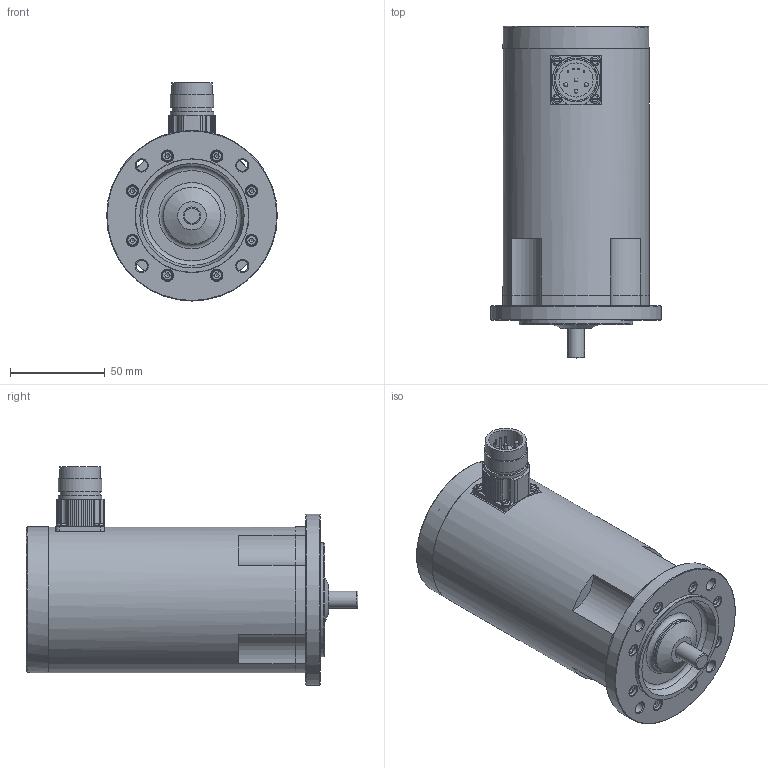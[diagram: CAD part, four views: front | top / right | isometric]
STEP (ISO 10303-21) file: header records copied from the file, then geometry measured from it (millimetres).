
FILE_DESCRIPTION(/* description */ (''),/* implementation_level */ '2;1');
FILE_NAME(/* name */ 'ksa_2x6e',/* time_stamp */ '2007-03-13T07:06:23+01:00',/* author */ (''),/* organization */ (''),/* preprocessor_version */ 'ST-DEVELOPER v8',/* originating_system */ 'UNIGRAPHICS SOLUTIONS - UNIGRAPHICS 18.0',/* authorisation */ '');
FILE_SCHEMA (('AUTOMOTIVE_DESIGN { 1 2 10303 214 0 1 1 1 }'));
Length unit declared in the file: millimetre
Products named in the file (11): din912-m4x12_A; din912-m3x20_A; iso1580-m2.5x6_A; 06331002_0; DIN3760_org_A12x24x7_0; 014260_0; 112069_0; 112068_0; Rotor_SA 24.. E_0; Gehaeuse_SA 24.. E_0; KSA246_E_0
Assembly tree (23 placements, depth 2):
  KSA246_E_0
    Gehaeuse_SA 24.. E_0
    Rotor_SA 24.. E_0
    112068_0
    112069_0
    014260_0
    DIN3760_org_A12x24x7_0
    06331002_0
    iso1580-m2.5x6_A  x4
    din912-m3x20_A  x8
    din912-m4x12_A  x4
Bounding box: 90 x 175 x 115 mm (x, y, z)
Volume: 365025.4 mm3; surface area: 112355.3 mm2
Topology: 23 solids, 23 shells, 591 faces, 1337 edges, 832 vertices
Faces by surface type: plane 277, cylinder 184, cone 89, torus 33, sphere 8
Full cylindrical faces by diameter (mm): 1 x4, 1.948 x4, 2 x4, 2.5 x12, 2.7 x4, 3 x12, 3.013 x1, 3.4 x8, 4 x4, 4.5 x4, 5.5 x8, 6 x12, 7 x4, 8 x4, 8.52 x1, 8.9 x1, 9 x1, 12 x2, 12.3 x1, 18 x1, 20 x3, 21 x2, 21.5 x1, 23 x3, 24 x2, 26 x1, 28 x1, 30 x2, 60 x1, 61 x3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
Entity records: 8933 total; most frequent: DIRECTION 1678, CARTESIAN_POINT 1452, ORIENTED_EDGE 1120, AXIS2_PLACEMENT_3D 764, EDGE_LOOP 580, EDGE_CURVE 560, VERTEX_POINT 443, CIRCLE 405
